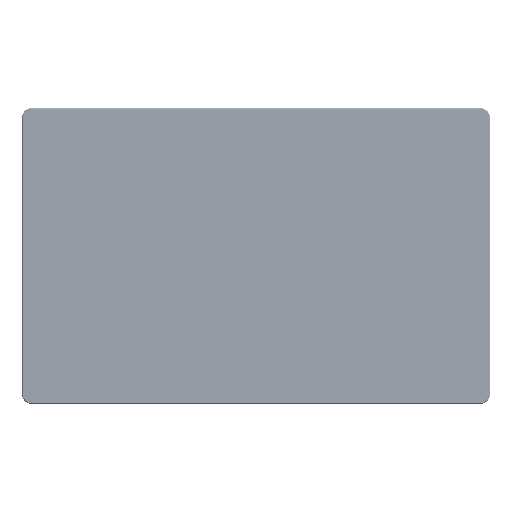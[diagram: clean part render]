
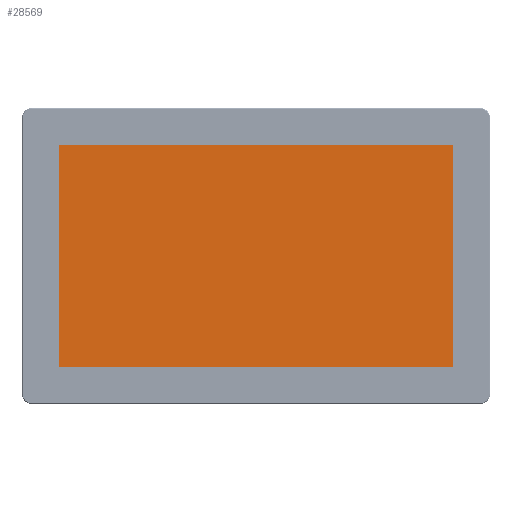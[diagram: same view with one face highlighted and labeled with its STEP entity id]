
A CAD part, top view. The second image highlights one B-rep face of the part: STEP entity #28569.
In plain terms, the highlighted planar face has unit normal (0, 0, 1).
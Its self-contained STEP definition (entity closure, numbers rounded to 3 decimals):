
#1316=PLANE('',#269569);
#17976=LINE('',#340744,#23291);
#17978=LINE('',#340748,#23293);
#17980=LINE('',#340752,#23295);
#17982=LINE('',#340756,#23297);
#23291=VECTOR('',#291223,1.);
#23293=VECTOR('',#291227,1.);
#23295=VECTOR('',#291231,1.);
#23297=VECTOR('',#291235,1.);
#28569=ADVANCED_FACE('NONE',(#46828),#1316,.F.);
#46828=FACE_OUTER_BOUND('',#62874,.T.);
#62874=EDGE_LOOP('',(#115061,#115062,#115063,#115064));
#115061=ORIENTED_EDGE('',*,*,#221488,.T.);
#115062=ORIENTED_EDGE('',*,*,#221494,.T.);
#115063=ORIENTED_EDGE('',*,*,#221492,.T.);
#115064=ORIENTED_EDGE('',*,*,#221490,.T.);
#193557=VERTEX_POINT('',#340743);
#193558=VERTEX_POINT('',#340745);
#193559=VERTEX_POINT('',#340749);
#193560=VERTEX_POINT('',#340753);
#221488=EDGE_CURVE('',#193558,#193557,#17976,.T.);
#221490=EDGE_CURVE('',#193559,#193558,#17978,.T.);
#221492=EDGE_CURVE('',#193560,#193559,#17980,.T.);
#221494=EDGE_CURVE('',#193557,#193560,#17982,.T.);
#269569=AXIS2_PLACEMENT_3D('',#340758,#291238,#291239);
#291223=DIRECTION('',(0.,-1.,0.));
#291227=DIRECTION('',(-1.,0.,0.));
#291231=DIRECTION('',(0.,1.,0.));
#291235=DIRECTION('',(1.,0.,0.));
#291238=DIRECTION('',(0.,0.,-1.));
#291239=DIRECTION('',(0.,-1.,0.));
#340743=CARTESIAN_POINT('',(44.787,-129.383,433.45));
#340744=CARTESIAN_POINT('',(44.787,101.017,433.45));
#340745=CARTESIAN_POINT('',(44.787,101.017,433.45));
#340748=CARTESIAN_POINT('',(454.587,101.017,433.45));
#340749=CARTESIAN_POINT('',(454.587,101.017,433.45));
#340752=CARTESIAN_POINT('',(454.587,101.017,433.45));
#340753=CARTESIAN_POINT('',(454.587,-129.383,433.45));
#340756=CARTESIAN_POINT('',(454.587,-129.383,433.45));
#340758=CARTESIAN_POINT('',(249.687,-14.133,433.45));
